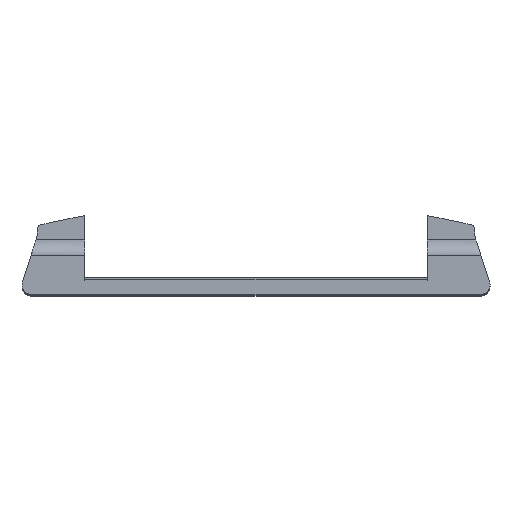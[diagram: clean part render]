
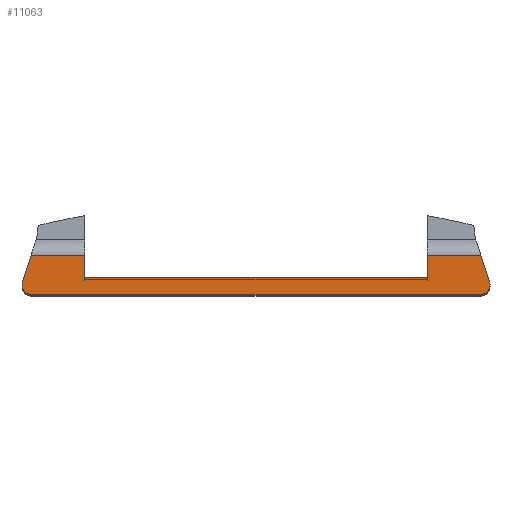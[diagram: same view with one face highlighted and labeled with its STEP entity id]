
A CAD part, top view. The second image highlights one B-rep face of the part: STEP entity #11063.
In plain terms, the highlighted planar face has unit normal (0, 0, 1).
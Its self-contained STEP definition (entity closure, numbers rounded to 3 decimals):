
#468=PLANE('',#12121);
#987=FACE_OUTER_BOUND('',#1548,.T.);
#1548=EDGE_LOOP('',(#9654,#9655,#9656,#9657,#9658,#9659,#9660,#9661,#9662,
#9663));
#1864=LINE('',#16248,#2940);
#2342=LINE('',#18081,#3418);
#2434=LINE('',#18375,#3510);
#2605=LINE('',#19165,#3681);
#2606=LINE('',#19166,#3682);
#2607=LINE('',#19168,#3683);
#2608=LINE('',#19172,#3684);
#2609=LINE('',#19175,#3685);
#2940=VECTOR('',#12927,10.);
#3418=VECTOR('',#14295,10.);
#3510=VECTOR('',#14503,10.);
#3681=VECTOR('',#15098,10.);
#3682=VECTOR('',#15099,10.);
#3683=VECTOR('',#15100,10.);
#3684=VECTOR('',#15103,10.);
#3685=VECTOR('',#15106,10.);
#4242=CIRCLE('',#12122,1.);
#4243=CIRCLE('',#12123,1.);
#4602=VERTEX_POINT('',#16242);
#4604=VERTEX_POINT('',#16246);
#5113=VERTEX_POINT('',#18079);
#5114=VERTEX_POINT('',#18080);
#5201=VERTEX_POINT('',#18373);
#5202=VERTEX_POINT('',#18374);
#5327=VERTEX_POINT('',#19167);
#5328=VERTEX_POINT('',#19169);
#5329=VERTEX_POINT('',#19171);
#5330=VERTEX_POINT('',#19173);
#5768=EDGE_CURVE('',#4602,#4604,#1864,.T.);
#6514=EDGE_CURVE('',#5113,#5114,#2342,.T.);
#6637=EDGE_CURVE('',#5201,#5202,#2434,.T.);
#6919=EDGE_CURVE('',#5114,#4602,#2605,.T.);
#6920=EDGE_CURVE('',#4604,#5201,#2606,.T.);
#6921=EDGE_CURVE('',#5202,#5327,#2607,.T.);
#6922=EDGE_CURVE('',#5327,#5328,#4242,.T.);
#6923=EDGE_CURVE('',#5328,#5329,#2608,.T.);
#6924=EDGE_CURVE('',#5329,#5330,#4243,.T.);
#6925=EDGE_CURVE('',#5330,#5113,#2609,.T.);
#9654=ORIENTED_EDGE('',*,*,#6514,.T.);
#9655=ORIENTED_EDGE('',*,*,#6919,.T.);
#9656=ORIENTED_EDGE('',*,*,#5768,.T.);
#9657=ORIENTED_EDGE('',*,*,#6920,.T.);
#9658=ORIENTED_EDGE('',*,*,#6637,.T.);
#9659=ORIENTED_EDGE('',*,*,#6921,.T.);
#9660=ORIENTED_EDGE('',*,*,#6922,.T.);
#9661=ORIENTED_EDGE('',*,*,#6923,.T.);
#9662=ORIENTED_EDGE('',*,*,#6924,.T.);
#9663=ORIENTED_EDGE('',*,*,#6925,.T.);
#11063=ADVANCED_FACE('',(#987),#468,.T.);
#12121=AXIS2_PLACEMENT_3D('',#19164,#15096,#15097);
#12122=AXIS2_PLACEMENT_3D('',#19170,#15101,#15102);
#12123=AXIS2_PLACEMENT_3D('',#19174,#15104,#15105);
#12927=DIRECTION('',(-1.,0.,0.));
#14295=DIRECTION('',(-1.,0.,0.));
#14503=DIRECTION('',(-1.,0.,0.));
#15096=DIRECTION('center_axis',(0.,0.,1.));
#15097=DIRECTION('ref_axis',(1.,0.,0.));
#15098=DIRECTION('',(0.,-1.,0.));
#15099=DIRECTION('',(0.,1.,0.));
#15100=DIRECTION('',(-0.309,-0.951,0.));
#15101=DIRECTION('center_axis',(0.,0.,1.));
#15102=DIRECTION('ref_axis',(-0.951,0.309,0.));
#15103=DIRECTION('',(1.,0.,0.));
#15104=DIRECTION('center_axis',(0.,0.,1.));
#15105=DIRECTION('ref_axis',(0.,-1.,0.));
#15106=DIRECTION('',(-0.309,0.951,0.));
#16242=CARTESIAN_POINT('',(17.4,1.7,49.));
#16246=CARTESIAN_POINT('',(-17.4,1.7,49.));
#16248=CARTESIAN_POINT('',(17.4,1.7,49.));
#18079=CARTESIAN_POINT('',(22.825,4.001,49.));
#18080=CARTESIAN_POINT('',(17.4,4.001,49.));
#18081=CARTESIAN_POINT('',(-50.,4.001,49.));
#18373=CARTESIAN_POINT('',(-17.4,4.001,49.));
#18374=CARTESIAN_POINT('',(-22.825,4.001,49.));
#18375=CARTESIAN_POINT('',(-50.,4.001,49.));
#19164=CARTESIAN_POINT('Origin',(0.,4.,49.));
#19165=CARTESIAN_POINT('',(17.4,8.,49.));
#19166=CARTESIAN_POINT('',(-17.4,1.7,49.));
#19167=CARTESIAN_POINT('',(-23.7,1.309,49.));
#19168=CARTESIAN_POINT('',(-22.273,5.7,49.));
#19169=CARTESIAN_POINT('',(-22.749,0.,49.));
#19170=CARTESIAN_POINT('Origin',(-22.749,1.,49.));
#19171=CARTESIAN_POINT('',(22.749,0.,49.));
#19172=CARTESIAN_POINT('',(-22.749,0.,49.));
#19173=CARTESIAN_POINT('',(23.7,1.309,49.));
#19174=CARTESIAN_POINT('Origin',(22.749,1.,49.));
#19175=CARTESIAN_POINT('',(23.7,1.309,49.));
